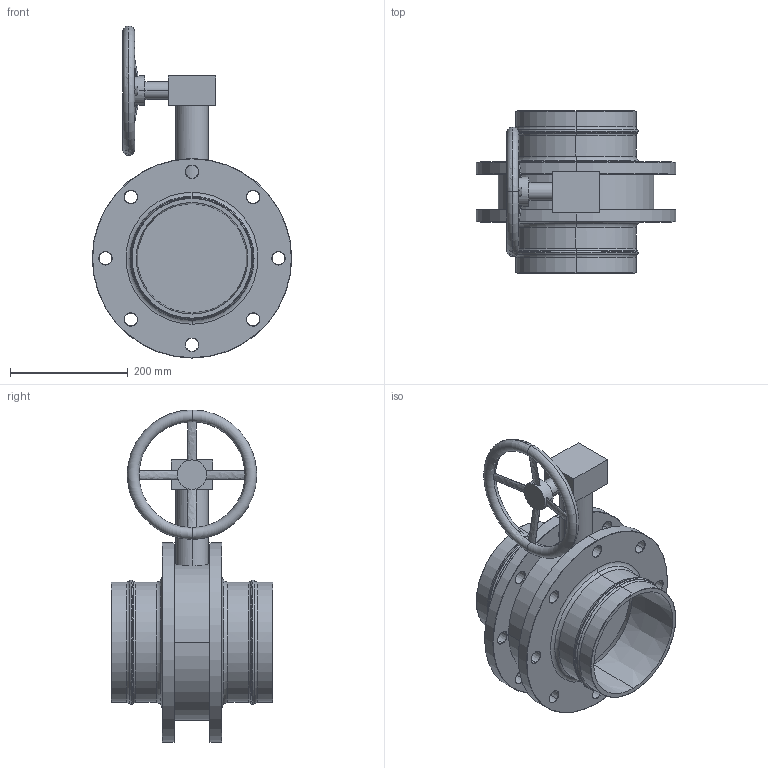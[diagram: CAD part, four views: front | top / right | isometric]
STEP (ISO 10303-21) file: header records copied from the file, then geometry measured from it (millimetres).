
FILE_DESCRIPTION((''),'2;1');
FILE_NAME('AU15A05100','2017-05-12T',('Administrator'),(''),'PRO/ENGINEER BY PARAMETRIC TECHNOLOGY CORPORATION, 2009360','PRO/ENGINEER BY PARAMETRIC TECHNOLOGY CORPORATION, 2009360','');
FILE_SCHEMA(('AUTOMOTIVE_DESIGN_CC2 { 1 2 10303 214 -1 1 5 2 }'));
Length unit declared in the file: millimetre
Products named in the file (1): AU15A05100
Bounding box: 339.17 x 275.47 x 564.58 mm (x, y, z)
Volume: 7559308.2 mm3; surface area: 701716.8 mm2
Topology: 1 solids, 1 shells, 200 faces, 524 edges, 330 vertices
Faces by surface type: cone 120, torus 36, cylinder 20, plane 16, extrusion 8
Entity records: 8315 total; most frequent: CARTESIAN_POINT 1458, DIRECTION 1226, ORIENTED_EDGE 1048, AXIS2_PLACEMENT_3D 528, PRESENTATION_STYLE_ASSIGNMENT 525, STYLED_ITEM 525, CURVE_STYLE 524, EDGE_CURVE 524
